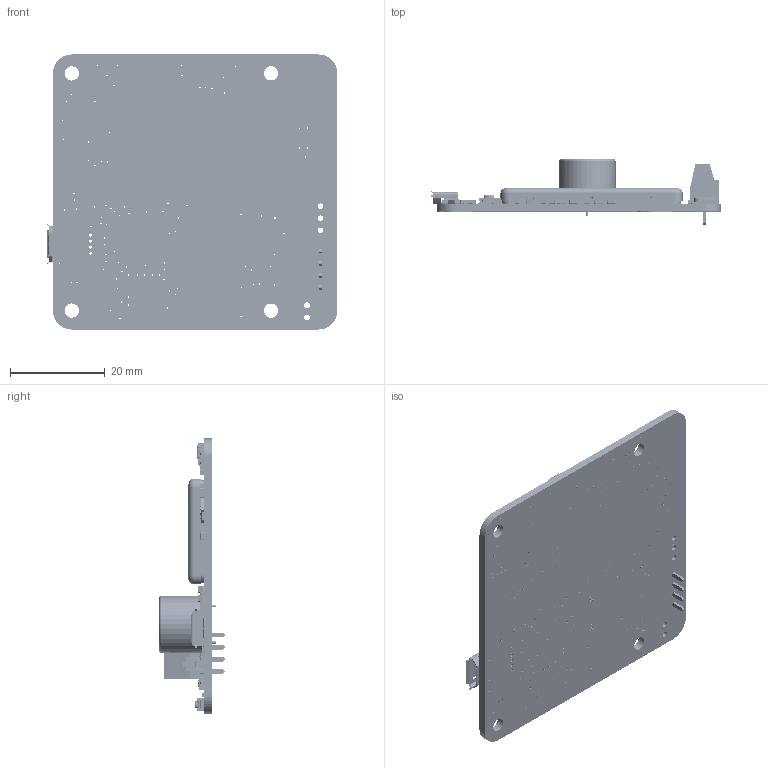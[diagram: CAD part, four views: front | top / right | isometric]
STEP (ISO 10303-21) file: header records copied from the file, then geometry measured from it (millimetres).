
FILE_DESCRIPTION (( 'STEP AP214' ), '1' );
FILE_NAME ('YRFIDMK1.STEP', '2024-03-05T11:29:38', ( '' ), ( '' ), 'SwSTEP 2.0', 'SolidWorks 2008', '' );
FILE_SCHEMA (( 'AUTOMOTIVE_DESIGN' ));
Length unit declared in the file: millimetre
Products named in the file (55): C16; C36; C31; B4; PCB; AUDIO_D; C13; C17; C25; C2; C30; FLASH1; C37; C23; CPU1; D2; ANT1_D; D1; PVSS; C24; P2; C18; R22; R28; R12; R17; R15; YRFIDMK1; R21; R2; RFID1; Shield0; R18; R13; R20; SW1; YBUTTON; T4; T2; 3671378Marking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
Assembly tree (97 placements, depth 2):
  PVSS
  YRFIDMK1
    C31  x11
    CPU1
    R17  x2
    C13  x3
    R30  x2
    C36  x3
    R21
    R4
    R20  x3
    C23  x2
    C24  x2
    C37  x4
    R11
    R22  x3
    SPK1
    C30  x4
    REG1
    RFID1
    R28  x2
    D1
    B4  x4
    Shield0
    YBUTTON  x3
    T4  x3
    R1
    R2
    FLASH1
    T2
    R15  x2
    C17
    AUDIO_D
    C18
    ANT1_D
    C2
    RGB1
    3671378Marking
    R13  x2
    R19
    R12
    P2
    R26  x4
    C25  x4
    C16
    SW2
    sens1
    USB1
    YLED
    D2
    PCB
    R14
    SW1
    R5
    R18
Bounding box: 61.3 x 13.9 x 58 mm (x, y, z)
Volume: 8478.5 mm3; surface area: 15716.7 mm2
Topology: 123 solids, 123 shells, 15482 faces, 40358 edges, 26013 vertices
Faces by surface type: plane 9789, cylinder 3929, bspline 1298, sphere 393, torus 65, cone 8
Entity records: 577899 total; most frequent: CARTESIAN_POINT 132387, ORIENTED_EDGE 67420, DIRECTION 61601, EDGE_CURVE 33710, LINE 25027, VECTOR 25027, VERTEX_POINT 22214, AXIS2_PLACEMENT_3D 18287
